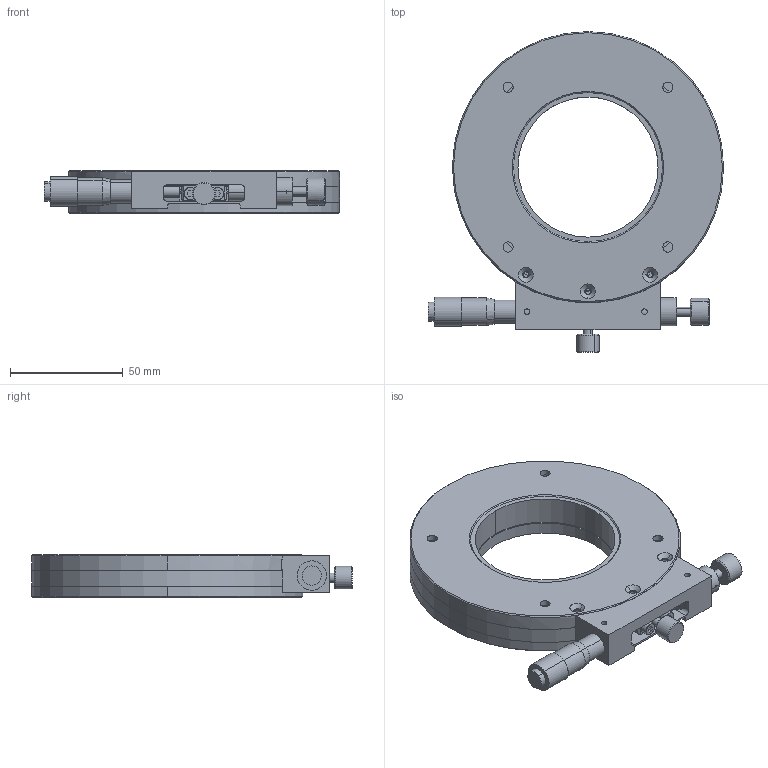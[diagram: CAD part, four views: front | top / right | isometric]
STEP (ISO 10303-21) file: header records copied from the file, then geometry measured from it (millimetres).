
FILE_DESCRIPTION (( 'STEP AP214' ), '1' );
FILE_NAME ('PT-SR120毀忒.STEP', '2023-05-07T09:13:58', ( '' ), ( '' ), 'SwSTEP 2.0', 'SolidWorks 2017', '' );
FILE_SCHEMA (( 'AUTOMOTIVE_DESIGN' ));
Length unit declared in the file: millimetre
Products named in the file (2): PT-SR120毀忒
Bounding box: 130.6 x 142 x 19 mm (x, y, z)
Volume: 141183.2 mm3; surface area: 80115.7 mm2
Topology: 22 solids, 22 shells, 515 faces, 1242 edges, 791 vertices
Faces by surface type: cylinder 247, plane 179, cone 50, bspline 39
Entity records: 22460 total; most frequent: CARTESIAN_POINT 4243, DIRECTION 2696, ORIENTED_EDGE 2436, EDGE_CURVE 1218, AXIS2_PLACEMENT_3D 1078, VERTEX_POINT 791, EDGE_LOOP 641, CIRCLE 600
